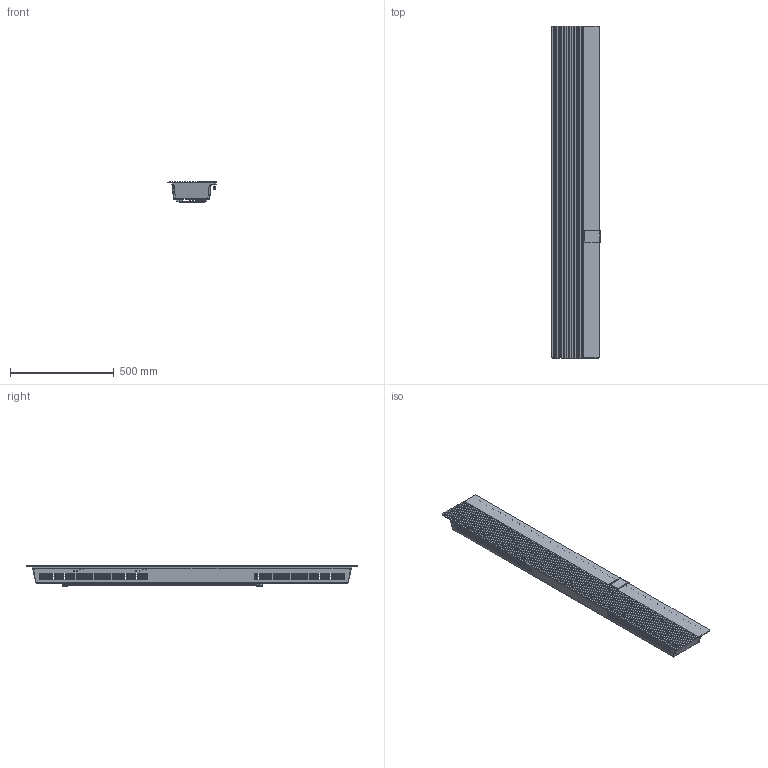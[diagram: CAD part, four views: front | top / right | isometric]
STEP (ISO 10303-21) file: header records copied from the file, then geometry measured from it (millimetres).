
FILE_DESCRIPTION(('FreeCAD Model'),'2;1');
FILE_NAME('Open CASCADE Shape Model','2026-06-16T14:39:44',(''),(''), 'Open CASCADE STEP processor 7.8','FreeCAD','Unknown');
FILE_SCHEMA(('AUTOMOTIVE_DESIGN { 1 0 10303 214 1 1 1 1 }'));
Length unit declared in the file: millimetre
Products named in the file (12): Unnamed; MIK_GR-POSTERIORE-1000_ASM; MIK_POSTERIORE-1000; DEK_AGGANCIO-SUPPORTO; ONS_GR-COMANDI_ASM; ONS_FONDO-SCATOLA-COMANDI; ONS_MASCHERINA-COMANDI; MIK_FRONTALE-1000; MIK_GR-SUPPORTO-MIKADO-1000_ASM; MIK_SUPPORTO-MURALE_25-MIKADO; ICO_TRAVERSA-SUPPORTO-2000W; MIK_SUPPORTO-MURALE-IN_25-MIK
Assembly tree (12 placements, depth 3):
  Unnamed
    MIK_GR-POSTERIORE-1000_ASM
      MIK_POSTERIORE-1000
      DEK_AGGANCIO-SUPPORTO  x2
    ONS_GR-COMANDI_ASM
      ONS_FONDO-SCATOLA-COMANDI
    ONS_MASCHERINA-COMANDI
    MIK_FRONTALE-1000
    MIK_GR-SUPPORTO-MIKADO-1000_ASM
      MIK_SUPPORTO-MURALE_25-MIKADO
      ICO_TRAVERSA-SUPPORTO-2000W
      MIK_SUPPORTO-MURALE-IN_25-MIK
Bounding box: 234.08 x 1600 x 100 mm (x, y, z)
Volume: 2099309.5 mm3; surface area: 2084762.7 mm2
Topology: 9 solids, 9 shells, 2182 faces, 6186 edges, 3986 vertices
Faces by surface type: plane 1325, cylinder 592, bspline 162, cone 80, sphere 12, torus 11
Entity records: 81766 total; most frequent: CARTESIAN_POINT 26238, ORIENTED_EDGE 12248, DIRECTION 10291, EDGE_CURVE 6124, LINE 4203, VECTOR 4203, VERTEX_POINT 3946, AXIS2_PLACEMENT_3D 3044
